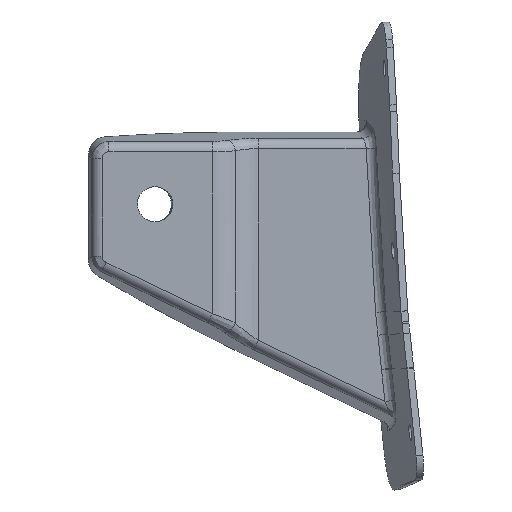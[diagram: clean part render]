
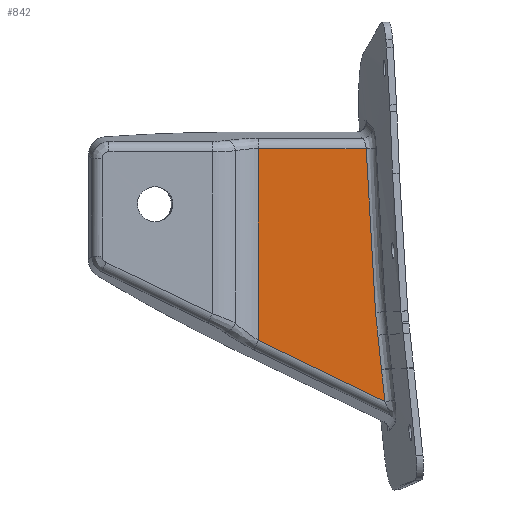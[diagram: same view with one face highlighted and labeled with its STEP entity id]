
A CAD part, top view. The second image highlights one B-rep face of the part: STEP entity #842.
In plain terms, the highlighted planar face has unit normal (0, 0, 1).
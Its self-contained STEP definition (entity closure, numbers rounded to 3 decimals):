
#216=(
BOUNDED_CURVE()
B_SPLINE_CURVE(3,(#6712,#6713,#6714,#6715),.UNSPECIFIED.,.F.,.F.)
B_SPLINE_CURVE_WITH_KNOTS((4,4),(0.,1.),.UNSPECIFIED.)
CURVE()
GEOMETRIC_REPRESENTATION_ITEM()
RATIONAL_B_SPLINE_CURVE((1.,1.,1.,1.))
REPRESENTATION_ITEM('')
);
#451=LINE('',#6512,#643);
#460=LINE('',#6727,#652);
#461=LINE('',#6756,#653);
#462=LINE('',#6758,#654);
#643=VECTOR('',#4669,1.);
#652=VECTOR('',#4686,1.);
#653=VECTOR('',#4687,1.);
#654=VECTOR('',#4688,1.);
#842=ADVANCED_FACE('',(#1125),#1019,.F.);
#1019=PLANE('',#4452);
#1125=FACE_OUTER_BOUND('',#1340,.T.);
#1340=EDGE_LOOP('',(#1854,#1855,#1856,#1857,#1858,#1859,#1860,#1861,#1862,
#1863));
#1854=ORIENTED_EDGE('',*,*,#3461,.F.);
#1855=ORIENTED_EDGE('',*,*,#3518,.F.);
#1856=ORIENTED_EDGE('',*,*,#3519,.F.);
#1857=ORIENTED_EDGE('',*,*,#3520,.F.);
#1858=ORIENTED_EDGE('',*,*,#3521,.F.);
#1859=ORIENTED_EDGE('',*,*,#3522,.F.);
#1860=ORIENTED_EDGE('',*,*,#3523,.T.);
#1861=ORIENTED_EDGE('',*,*,#3524,.F.);
#1862=ORIENTED_EDGE('',*,*,#3525,.F.);
#1863=ORIENTED_EDGE('',*,*,#3492,.F.);
#2941=VERTEX_POINT('',#5922);
#2957=VERTEX_POINT('',#6199);
#2976=VERTEX_POINT('',#6513);
#2994=VERTEX_POINT('',#6688);
#2995=VERTEX_POINT('',#6716);
#2996=VERTEX_POINT('',#6726);
#2997=VERTEX_POINT('',#6728);
#2998=VERTEX_POINT('',#6745);
#2999=VERTEX_POINT('',#6755);
#3000=VERTEX_POINT('',#6757);
#3461=EDGE_CURVE('',#2957,#2941,#4091,.T.);
#3492=EDGE_CURVE('',#2941,#2976,#451,.T.);
#3518=EDGE_CURVE('',#2994,#2957,#4132,.T.);
#3519=EDGE_CURVE('',#2995,#2994,#216,.T.);
#3520=EDGE_CURVE('',#2996,#2995,#4133,.T.);
#3521=EDGE_CURVE('',#2997,#2996,#460,.T.);
#3522=EDGE_CURVE('',#2998,#2997,#4134,.T.);
#3523=EDGE_CURVE('',#2998,#2999,#4135,.T.);
#3524=EDGE_CURVE('',#3000,#2999,#461,.T.);
#3525=EDGE_CURVE('',#2976,#3000,#462,.T.);
#4091=B_SPLINE_CURVE_WITH_KNOTS('',5,(#6200,#6201,#6202,#6203,#6204,#6205),
 .UNSPECIFIED.,.F.,.F.,(6,6),(0.,1.),.UNSPECIFIED.);
#4132=B_SPLINE_CURVE_WITH_KNOTS('',5,(#6689,#6690,#6691,#6692,#6693,#6694,
#6695,#6696,#6697,#6698,#6699),.UNSPECIFIED.,.F.,.F.,(6,5,6),(0.,0.99,
1.),.UNSPECIFIED.);
#4133=B_SPLINE_CURVE_WITH_KNOTS('',5,(#6717,#6718,#6719,#6720,#6721,#6722,
#6723,#6724,#6725),.UNSPECIFIED.,.F.,.F.,(6,3,6),(0.,0.616,
1.),.UNSPECIFIED.);
#4134=B_SPLINE_CURVE_WITH_KNOTS('',3,(#6729,#6730,#6731,#6732,#6733,#6734,
#6735,#6736,#6737,#6738,#6739,#6740,#6741,#6742,#6743,#6744),
 .UNSPECIFIED.,.F.,.F.,(4,2,2,2,1,1,2,2,4),(0.,0.25,0.375,
0.437,0.469,0.484,0.492,
0.5,1.),.UNSPECIFIED.);
#4135=B_SPLINE_CURVE_WITH_KNOTS('',5,(#6746,#6747,#6748,#6749,#6750,#6751,
#6752,#6753,#6754),.UNSPECIFIED.,.F.,.F.,(6,3,6),(0.,0.5,1.),
 .UNSPECIFIED.);
#4452=AXIS2_PLACEMENT_3D('',#6759,#4689,#4690);
#4669=DIRECTION('',(-0.901,0.434,0.));
#4686=DIRECTION('',(0.102,-0.995,0.));
#4687=DIRECTION('',(1.,0.,0.));
#4688=DIRECTION('',(0.,1.,0.));
#4689=DIRECTION('',(0.,0.,-1.));
#4690=DIRECTION('',(1.,0.,0.));
#5922=CARTESIAN_POINT('',(4017.743,707.445,309.9));
#6199=CARTESIAN_POINT('',(4016.769,716.45,309.9));
#6200=CARTESIAN_POINT('',(4016.769,716.451,309.9));
#6201=CARTESIAN_POINT('',(4016.968,714.65,309.9));
#6202=CARTESIAN_POINT('',(4017.165,712.849,309.9));
#6203=CARTESIAN_POINT('',(4017.359,711.048,309.9));
#6204=CARTESIAN_POINT('',(4017.552,709.247,309.9));
#6205=CARTESIAN_POINT('',(4017.743,707.445,309.9));
#6512=CARTESIAN_POINT('',(3999.676,716.153,309.9));
#6513=CARTESIAN_POINT('',(3981.609,724.861,309.9));
#6688=CARTESIAN_POINT('',(4016.753,716.595,309.9));
#6689=CARTESIAN_POINT('',(4016.753,716.595,309.9));
#6690=CARTESIAN_POINT('',(4016.757,716.567,309.9));
#6691=CARTESIAN_POINT('',(4016.76,716.538,309.9));
#6692=CARTESIAN_POINT('',(4016.763,716.509,309.9));
#6693=CARTESIAN_POINT('',(4016.766,716.48,309.9));
#6694=CARTESIAN_POINT('',(4016.769,716.451,309.9));
#6695=CARTESIAN_POINT('',(4016.769,716.451,309.9));
#6696=CARTESIAN_POINT('',(4016.769,716.451,309.9));
#6697=CARTESIAN_POINT('',(4016.769,716.45,309.9));
#6698=CARTESIAN_POINT('',(4016.769,716.45,309.9));
#6699=CARTESIAN_POINT('',(4016.769,716.45,309.9));
#6712=CARTESIAN_POINT('',(4016.751,716.616,309.9));
#6713=CARTESIAN_POINT('',(4016.752,716.609,309.9));
#6714=CARTESIAN_POINT('',(4016.753,716.602,309.9));
#6715=CARTESIAN_POINT('',(4016.753,716.595,309.9));
#6716=CARTESIAN_POINT('',(4016.751,716.616,309.9));
#6717=CARTESIAN_POINT('',(4015.729,726.354,309.9));
#6718=CARTESIAN_POINT('',(4015.862,725.108,309.9));
#6719=CARTESIAN_POINT('',(4015.997,723.863,309.9));
#6720=CARTESIAN_POINT('',(4016.091,722.992,309.9));
#6721=CARTESIAN_POINT('',(4016.298,720.969,309.9));
#6722=CARTESIAN_POINT('',(4016.504,718.946,309.9));
#6723=CARTESIAN_POINT('',(4016.584,718.169,309.9));
#6724=CARTESIAN_POINT('',(4016.666,717.392,309.9));
#6725=CARTESIAN_POINT('',(4016.751,716.616,309.9));
#6726=CARTESIAN_POINT('',(4015.729,726.354,309.9));
#6727=CARTESIAN_POINT('',(4015.067,732.797,309.9));
#6728=CARTESIAN_POINT('',(4015.066,732.812,309.9));
#6729=CARTESIAN_POINT('',(4012.388,779.554,309.9));
#6730=CARTESIAN_POINT('',(4012.529,775.979,309.9));
#6731=CARTESIAN_POINT('',(4012.674,772.242,309.9));
#6732=CARTESIAN_POINT('',(4012.918,766.394,309.9));
#6733=CARTESIAN_POINT('',(4013.004,764.404,309.9));
#6734=CARTESIAN_POINT('',(4013.144,761.359,309.9));
#6735=CARTESIAN_POINT('',(4013.192,760.334,309.9));
#6736=CARTESIAN_POINT('',(4013.268,758.781,309.9));
#6737=CARTESIAN_POINT('',(4013.307,758.001,309.9));
#6738=CARTESIAN_POINT('',(4013.353,757.085,309.9));
#6739=CARTESIAN_POINT('',(4013.373,756.691,309.9));
#6740=CARTESIAN_POINT('',(4013.387,756.427,309.9));
#6741=CARTESIAN_POINT('',(4013.396,756.265,309.9));
#6742=CARTESIAN_POINT('',(4013.737,749.714,309.9));
#6743=CARTESIAN_POINT('',(4014.195,741.924,309.9));
#6744=CARTESIAN_POINT('',(4015.066,732.812,309.9));
#6745=CARTESIAN_POINT('',(4012.388,779.555,309.9));
#6746=CARTESIAN_POINT('',(4015.346,779.672,312.431));
#6747=CARTESIAN_POINT('',(4015.279,779.669,312.012));
#6748=CARTESIAN_POINT('',(4015.139,779.663,311.605));
#6749=CARTESIAN_POINT('',(4014.927,779.655,311.227));
#6750=CARTESIAN_POINT('',(4014.38,779.633,310.562));
#6751=CARTESIAN_POINT('',(4013.638,779.604,310.125));
#6752=CARTESIAN_POINT('',(4013.232,779.588,309.975));
#6753=CARTESIAN_POINT('',(4012.809,779.571,309.9));
#6754=CARTESIAN_POINT('',(4012.385,779.554,309.9));
#6755=CARTESIAN_POINT('',(4012.385,779.554,309.9));
#6756=CARTESIAN_POINT('',(3995.646,779.554,309.9));
#6757=CARTESIAN_POINT('',(3981.609,779.554,309.9));
#6758=CARTESIAN_POINT('',(3981.609,734.793,309.9));
#6759=CARTESIAN_POINT('',(3952.,763.708,309.9));
